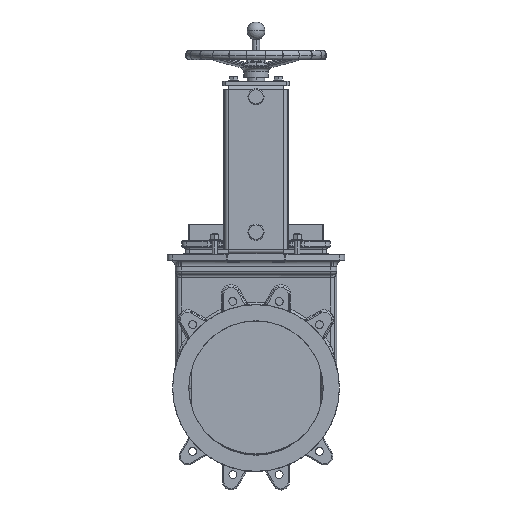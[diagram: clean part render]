
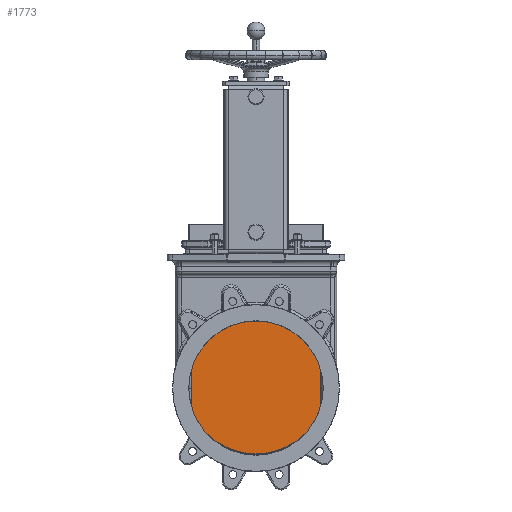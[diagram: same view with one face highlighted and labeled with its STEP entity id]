
A CAD part, left-side view. The second image highlights one B-rep face of the part: STEP entity #1773.
In plain terms, the highlighted planar face has unit normal (-1, 0, 0).
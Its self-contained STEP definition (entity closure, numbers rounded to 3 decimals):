
#1773=ADVANCED_FACE('',(#5000),#5001,.F.);
#5000=FACE_OUTER_BOUND('',#39032,.T.);
#5001=PLANE('',#39033);
#39032=EDGE_LOOP('',(#55022,#55023,#55024,#55025,#55026));
#39033=AXIS2_PLACEMENT_3D('',#55027,#55028,#55029);
#55022=ORIENTED_EDGE('',*,*,#61572,.F.);
#55023=ORIENTED_EDGE('',*,*,#60039,.T.);
#55024=ORIENTED_EDGE('',*,*,#60639,.T.);
#55025=ORIENTED_EDGE('',*,*,#58391,.T.);
#55026=ORIENTED_EDGE('',*,*,#59973,.T.);
#55027=CARTESIAN_POINT('',(-6.,-149.6,-150.));
#55028=DIRECTION('',(1.,0.,0.));
#55029=DIRECTION('',(0.,0.,1.));
#58391=EDGE_CURVE('',#63750,#63756,#63758,.T.);
#59973=EDGE_CURVE('',#63756,#66419,#66507,.T.);
#60039=EDGE_CURVE('',#66406,#66609,#66611,.T.);
#60639=EDGE_CURVE('',#66609,#63750,#67498,.T.);
#61572=EDGE_CURVE('',#66406,#66419,#68709,.T.);
#63750=VERTEX_POINT('',#71599);
#63756=VERTEX_POINT('',#71613);
#63758=CIRCLE('',#71618,155.2);
#66406=VERTEX_POINT('',#79250);
#66419=VERTEX_POINT('',#79269);
#66507=LINE('',#79474,#79475);
#66609=VERTEX_POINT('',#79637);
#66611=LINE('',#79642,#79643);
#67498=CIRCLE('',#82959,155.2);
#68709=LINE('',#86463,#86464);
#71599=CARTESIAN_POINT('',(-6.,0.,-147.));
#71613=CARTESIAN_POINT('',(-6.,-148.1,-38.205));
#71618=AXIS2_PLACEMENT_3D('',#88947,#88948,#88949);
#79250=CARTESIAN_POINT('',(-6.,148.1,289.));
#79269=CARTESIAN_POINT('',(-6.,-148.1,289.));
#79474=CARTESIAN_POINT('',(-6.,-148.1,-150.));
#79475=VECTOR('',#91314,1000.);
#79637=CARTESIAN_POINT('',(-6.,148.1,-38.205));
#79642=CARTESIAN_POINT('',(-6.,148.1,-150.));
#79643=VECTOR('',#91420,1000.);
#82959=AXIS2_PLACEMENT_3D('',#92228,#92229,#92230);
#86463=CARTESIAN_POINT('',(-6.,-149.6,289.));
#86464=VECTOR('',#93748,1000.);
#88947=CARTESIAN_POINT('',(-6.,0.,8.2));
#88948=DIRECTION('',(-1.,0.,0.));
#88949=DIRECTION('',(0.,0.,-1.));
#91314=DIRECTION('',(0.,0.,1.));
#91420=DIRECTION('',(0.,0.,-1.));
#92228=CARTESIAN_POINT('',(-6.,0.,8.2));
#92229=DIRECTION('',(-1.,0.,0.));
#92230=DIRECTION('',(0.,0.,-1.));
#93748=DIRECTION('',(0.,-1.,0.));
